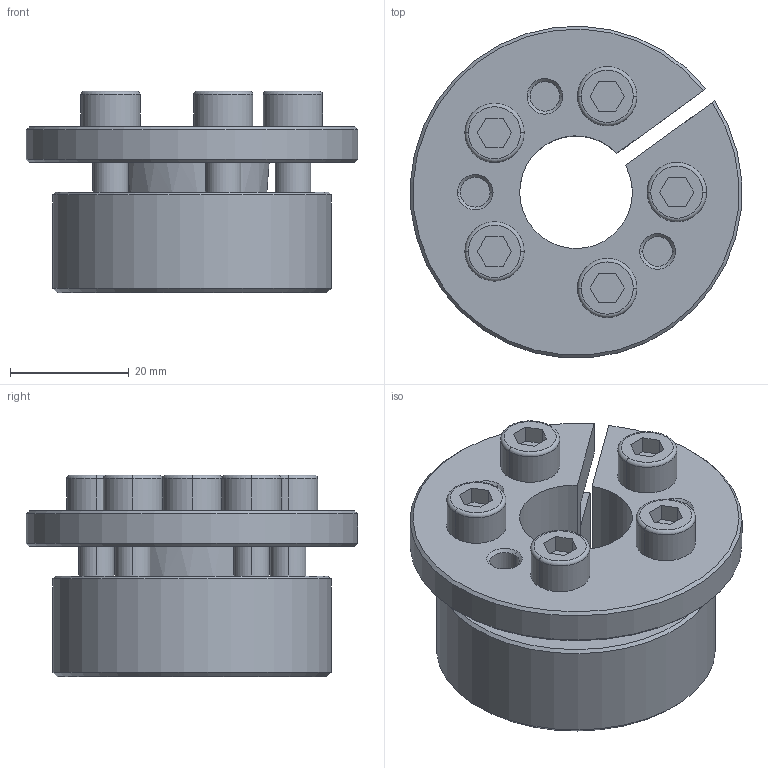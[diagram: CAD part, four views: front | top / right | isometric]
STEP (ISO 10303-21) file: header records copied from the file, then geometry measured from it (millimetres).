
FILE_DESCRIPTION((''),'2;1');
FILE_NAME('398-011-0019','2024-02-18T',('Brieden'),('Brieden'),'PRO/ENGINEER BY PARAMETRIC TECHNOLOGY CORPORATION, 2010160','PRO/ENGINEER BY PARAMETRIC TECHNOLOGY CORPORATION, 2010160','');
FILE_SCHEMA(('AUTOMOTIVE_DESIGN { 1 0 10303 214 1 1 1 1 }'));
Length unit declared in the file: millimetre
Products named in the file (1): 398-011-0019
Bounding box: 55.89 x 55.89 x 34 mm (x, y, z)
Volume: 39732.4 mm3; surface area: 18483 mm2
Topology: 2 solids, 2 shells, 146 faces, 334 edges, 212 vertices
Faces by surface type: plane 59, cylinder 49, cone 28, torus 10
Entity records: 5444 total; most frequent: DIRECTION 764, CARTESIAN_POINT 752, ORIENTED_EDGE 668, PRESENTATION_STYLE_ASSIGNMENT 353, STYLED_ITEM 336, CURVE_STYLE 334, EDGE_CURVE 334, AXIS2_PLACEMENT_3D 295
